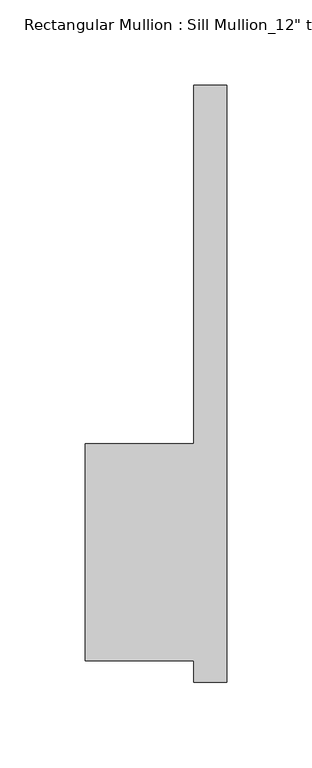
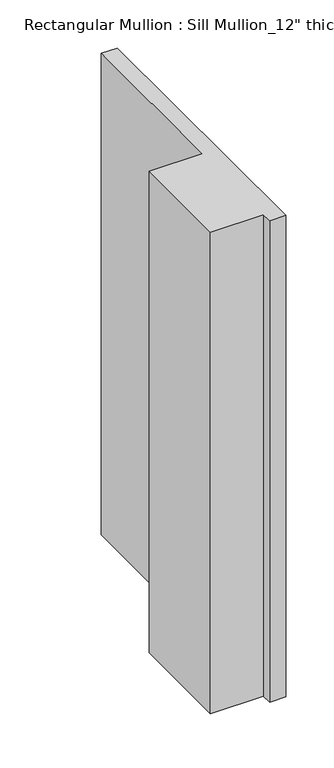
"""IFC4 building model written with IfcOpenShell, lengths in millimetres: member geometry."""

from ifc_helpers import new_model, si_unit, frame, origin, place, context, project, spatial, polyline, outline, extrude, source, transform, mapped, element, save


def member_50910d6c(model_context):
    return source(origin(), model_context, "Body", "SweptSolid", [
        extrude(outline(polyline([(-82.55, 50.8), (-19.05, 50.8), (-19.05, 260.35), (0.0, 260.35), (0.0, -88.9), (-19.05, -88.9), (-19.05, -76.2), (-82.55, -76.2), (-82.55, 50.8)])), frame((0.0, 0.0, -609.6), z_axis=(0.0, 0.0, 1.0), x_axis=(1.0, 0.0, 0.0)), (0.0, 0.0, 1.0), 609.6),
    ])


if __name__ == "__main__":
    model = new_model("IFC4")
    model_context = context("Model", 3, world=origin())
    ifc_project = project(units=[si_unit("LENGTHUNIT", "METRE", prefix="MILLI")], contexts=[model_context])
    site = spatial("IfcSite", under=ifc_project)
    building = spatial("IfcBuilding", under=site)
    placement = place(None, origin())
    member_shape = member_50910d6c(model_context)
    element("IfcMember", 1, ObjectType="Rectangular Mullion : Sill Mullion_12\" thick wall", at=placement, inside=building, context=model_context, shape_type="MappedRepresentation", body=[
        mapped(member_shape, transform((0.0, 0.0, 0.0), x_axis=(1.0, 0.0, 0.0), y_axis=(0.0, 1.0, 0.0), z_axis=(0.0, 0.0, 1.0))),
    ])
    save(model, "model.ifc")
